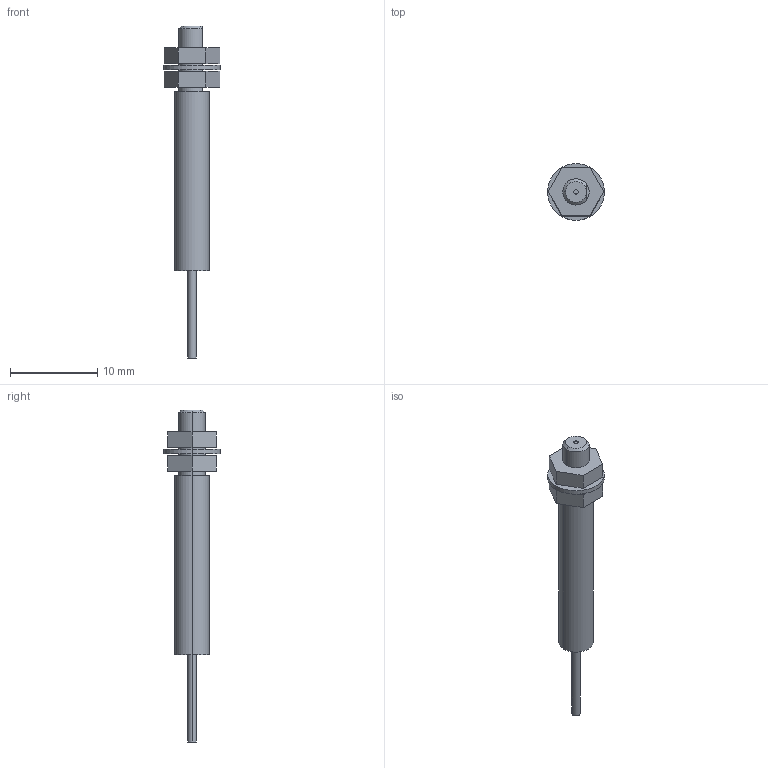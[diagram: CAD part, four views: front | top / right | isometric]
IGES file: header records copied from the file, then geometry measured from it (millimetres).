
Start section: SolidWorks IGES FILE using analytic representation for surfaces
Global section: file name: \\Intra-srv04\開発データ\CAD_Data\CAD委員会\3D電子ｶﾀﾛｸﾞ\製品カタログ（新）\0_IGES\FT-P40.IGS,41HSolidWorks 2004; native system: by SolidWorks Corporation; preprocessor: Version 5.3; author: YK0651; date: 050909.001432; units: millimetre
Bounding box: 6.5 x 6.5 x 38 mm (x, y, z)
Volume: 396.4 mm3; surface area: 638 mm2
Topology: 4 solids, 4 shells, 45 faces, 98 edges, 64 vertices
Faces by surface type: plane 25, revolution 20
